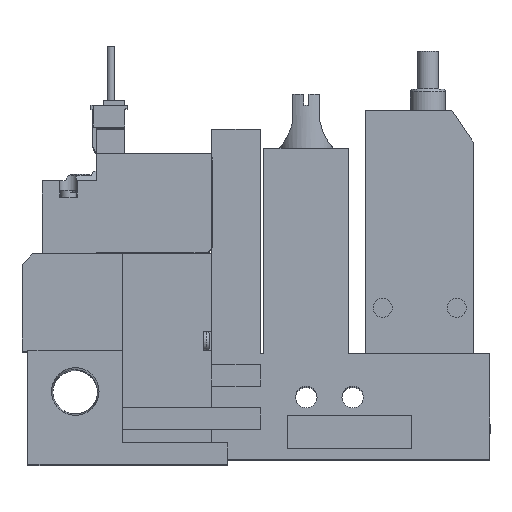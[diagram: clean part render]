
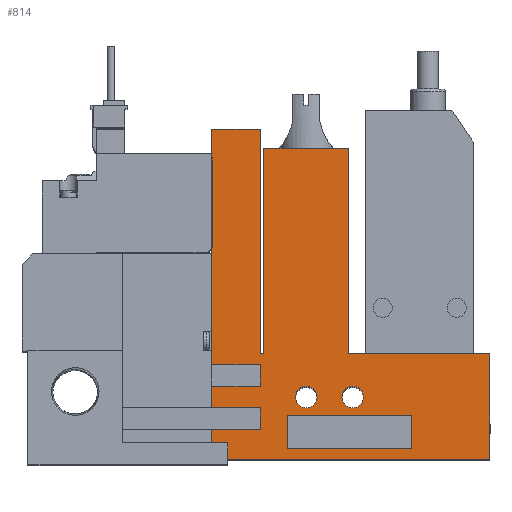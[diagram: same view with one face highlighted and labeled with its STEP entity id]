
A CAD part, top view. The second image highlights one B-rep face of the part: STEP entity #814.
In plain terms, the highlighted planar face has unit normal (0, 0, 1).
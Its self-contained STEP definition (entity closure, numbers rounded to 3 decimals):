
#814=ADVANCED_FACE('',(#1605,#1606,#1607,#1608),#1609,.T.);
#1605=FACE_OUTER_BOUND('',#2737,.T.);
#1606=FACE_BOUND('',#2738,.T.);
#1607=FACE_BOUND('',#2739,.T.);
#1608=FACE_BOUND('',#2740,.T.);
#1609=PLANE('',#2741);
#2737=EDGE_LOOP('',(#5508,#5509,#5510,#5511,#5512,#5513,#5514,#5515,#5516,#5517,#5518,#5519,#5520,#5521,#5522,#5523,#5524,#5525));
#2738=EDGE_LOOP('',(#5526,#5527,#5528,#5529));
#2739=EDGE_LOOP('',(#5530));
#2740=EDGE_LOOP('',(#5531));
#2741=AXIS2_PLACEMENT_3D('',#5532,#5533,#5534);
#5508=ORIENTED_EDGE('',*,*,#7710,.T.);
#5509=ORIENTED_EDGE('',*,*,#7676,.T.);
#5510=ORIENTED_EDGE('',*,*,#7711,.T.);
#5511=ORIENTED_EDGE('',*,*,#7712,.T.);
#5512=ORIENTED_EDGE('',*,*,#7713,.T.);
#5513=ORIENTED_EDGE('',*,*,#7714,.T.);
#5514=ORIENTED_EDGE('',*,*,#7650,.T.);
#5515=ORIENTED_EDGE('',*,*,#7668,.T.);
#5516=ORIENTED_EDGE('',*,*,#7715,.T.);
#5517=ORIENTED_EDGE('',*,*,#7716,.T.);
#5518=ORIENTED_EDGE('',*,*,#7717,.T.);
#5519=ORIENTED_EDGE('',*,*,#7718,.T.);
#5520=ORIENTED_EDGE('',*,*,#7719,.T.);
#5521=ORIENTED_EDGE('',*,*,#7720,.T.);
#5522=ORIENTED_EDGE('',*,*,#7721,.T.);
#5523=ORIENTED_EDGE('',*,*,#7722,.T.);
#5524=ORIENTED_EDGE('',*,*,#7723,.T.);
#5525=ORIENTED_EDGE('',*,*,#7724,.T.);
#5526=ORIENTED_EDGE('',*,*,#7725,.T.);
#5527=ORIENTED_EDGE('',*,*,#7726,.T.);
#5528=ORIENTED_EDGE('',*,*,#7727,.T.);
#5529=ORIENTED_EDGE('',*,*,#7660,.T.);
#5530=ORIENTED_EDGE('',*,*,#7728,.T.);
#5531=ORIENTED_EDGE('',*,*,#7689,.T.);
#5532=CARTESIAN_POINT('',(0.0,0.0,10.0));
#5533=DIRECTION('',(0.0,0.0,1.0));
#5534=DIRECTION('',(1.0,0.0,0.0));
#7650=EDGE_CURVE('',#9239,#9244,#9246,.T.);
#7660=EDGE_CURVE('',#9260,#9262,#9264,.T.);
#7668=EDGE_CURVE('',#9244,#9278,#9280,.T.);
#7676=EDGE_CURVE('',#9286,#9293,#9295,.T.);
#7689=EDGE_CURVE('',#9319,#9319,#9320,.T.);
#7710=EDGE_CURVE('',#9360,#9286,#9361,.T.);
#7711=EDGE_CURVE('',#9293,#9362,#9363,.T.);
#7712=EDGE_CURVE('',#9362,#9364,#9365,.T.);
#7713=EDGE_CURVE('',#9364,#9366,#9367,.T.);
#7714=EDGE_CURVE('',#9366,#9239,#9368,.T.);
#7715=EDGE_CURVE('',#9278,#9369,#9370,.T.);
#7716=EDGE_CURVE('',#9369,#9371,#9372,.T.);
#7717=EDGE_CURVE('',#9371,#9373,#9374,.T.);
#7718=EDGE_CURVE('',#9373,#9375,#9376,.T.);
#7719=EDGE_CURVE('',#9375,#9377,#9378,.T.);
#7720=EDGE_CURVE('',#9377,#9379,#9380,.T.);
#7721=EDGE_CURVE('',#9379,#9381,#9382,.T.);
#7722=EDGE_CURVE('',#9381,#9383,#9384,.T.);
#7723=EDGE_CURVE('',#9383,#9385,#9386,.T.);
#7724=EDGE_CURVE('',#9385,#9360,#9387,.T.);
#7725=EDGE_CURVE('',#9262,#9388,#9389,.T.);
#7726=EDGE_CURVE('',#9388,#9390,#9391,.T.);
#7727=EDGE_CURVE('',#9390,#9260,#9392,.T.);
#7728=EDGE_CURVE('',#9393,#9393,#9394,.T.);
#9239=VERTEX_POINT('',#11819);
#9244=VERTEX_POINT('',#11826);
#9246=LINE('',#11829,#11830);
#9260=VERTEX_POINT('',#11851);
#9262=VERTEX_POINT('',#11854);
#9264=LINE('',#11857,#11858);
#9278=VERTEX_POINT('',#11877);
#9280=LINE('',#11880,#11881);
#9286=VERTEX_POINT('',#11889);
#9293=VERTEX_POINT('',#11899);
#9295=LINE('',#11902,#11903);
#9319=VERTEX_POINT('',#11934);
#9320=CIRCLE('',#11935,2.0);
#9360=VERTEX_POINT('',#11995);
#9361=LINE('',#11996,#11997);
#9362=VERTEX_POINT('',#11998);
#9363=LINE('',#11999,#12000);
#9364=VERTEX_POINT('',#12001);
#9365=LINE('',#12002,#12003);
#9366=VERTEX_POINT('',#12004);
#9367=LINE('',#12005,#12006);
#9368=LINE('',#12007,#12008);
#9369=VERTEX_POINT('',#12009);
#9370=LINE('',#12010,#12011);
#9371=VERTEX_POINT('',#12012);
#9372=LINE('',#12013,#12014);
#9373=VERTEX_POINT('',#12015);
#9374=LINE('',#12016,#12017);
#9375=VERTEX_POINT('',#12018);
#9376=LINE('',#12019,#12020);
#9377=VERTEX_POINT('',#12021);
#9378=LINE('',#12022,#12023);
#9379=VERTEX_POINT('',#12024);
#9380=LINE('',#12025,#12026);
#9381=VERTEX_POINT('',#12027);
#9382=LINE('',#12028,#12029);
#9383=VERTEX_POINT('',#12030);
#9384=LINE('',#12031,#12032);
#9385=VERTEX_POINT('',#12033);
#9386=LINE('',#12034,#12035);
#9387=LINE('',#12036,#12037);
#9388=VERTEX_POINT('',#12038);
#9389=LINE('',#12039,#12040);
#9390=VERTEX_POINT('',#12041);
#9391=LINE('',#12042,#12043);
#9392=LINE('',#12044,#12045);
#9393=VERTEX_POINT('',#12046);
#9394=CIRCLE('',#12047,2.0);
#11819=CARTESIAN_POINT('',(44.1,9.5,10.0));
#11826=CARTESIAN_POINT('',(44.1,5.5,10.0));
#11829=CARTESIAN_POINT('',(44.1,0.0,10.0));
#11830=VECTOR('',#14039,1.0);
#11851=CARTESIAN_POINT('',(72.1,2.0,10.0));
#11854=CARTESIAN_POINT('',(49.1,2.0,10.0));
#11857=CARTESIAN_POINT('',(0.0,2.0,10.0));
#11858=VECTOR('',#14049,1.0);
#11877=CARTESIAN_POINT('',(35.1,5.5,10.0));
#11880=CARTESIAN_POINT('',(0.0,5.5,10.0));
#11881=VECTOR('',#14059,1.0);
#11889=CARTESIAN_POINT('',(35.1,17.5,10.0));
#11899=CARTESIAN_POINT('',(44.1,17.5,10.0));
#11902=CARTESIAN_POINT('',(0.0,17.5,10.0));
#11903=VECTOR('',#14069,1.0);
#11934=CARTESIAN_POINT('',(63.2,11.5,10.0));
#11935=AXIS2_PLACEMENT_3D('',#14092,#14093,#14094);
#11995=CARTESIAN_POINT('',(35.1,61.0,10.0));
#11996=CARTESIAN_POINT('',(35.1,61.0,10.0));
#11997=VECTOR('',#14115,1.0);
#11998=CARTESIAN_POINT('',(44.1,13.5,10.0));
#11999=CARTESIAN_POINT('',(44.1,0.0,10.0));
#12000=VECTOR('',#14116,1.0);
#12001=CARTESIAN_POINT('',(35.1,13.5,10.0));
#12002=CARTESIAN_POINT('',(0.0,13.5,10.0));
#12003=VECTOR('',#14117,1.0);
#12004=CARTESIAN_POINT('',(35.1,9.5,10.0));
#12005=CARTESIAN_POINT('',(35.1,0.0,10.0));
#12006=VECTOR('',#14118,1.0);
#12007=CARTESIAN_POINT('',(0.0,9.5,10.0));
#12008=VECTOR('',#14119,1.0);
#12009=CARTESIAN_POINT('',(35.1,0.0,10.0));
#12010=CARTESIAN_POINT('',(35.1,0.0,10.0));
#12011=VECTOR('',#14120,1.0);
#12012=CARTESIAN_POINT('',(86.6,0.0,10.0));
#12013=CARTESIAN_POINT('',(18.6,0.0,10.0));
#12014=VECTOR('',#14121,1.0);
#12015=CARTESIAN_POINT('',(86.6,19.5,10.0));
#12016=CARTESIAN_POINT('',(86.6,0.0,10.0));
#12017=VECTOR('',#14122,1.0);
#12018=CARTESIAN_POINT('',(60.45,19.5,10.0));
#12019=CARTESIAN_POINT('',(86.6,19.5,10.0));
#12020=VECTOR('',#14123,1.0);
#12021=CARTESIAN_POINT('',(60.45,57.5,10.0));
#12022=CARTESIAN_POINT('',(60.45,19.5,10.0));
#12023=VECTOR('',#14124,1.0);
#12024=CARTESIAN_POINT('',(44.75,57.5,10.0));
#12025=CARTESIAN_POINT('',(60.45,57.5,10.0));
#12026=VECTOR('',#14125,1.0);
#12027=CARTESIAN_POINT('',(44.75,19.5,10.0));
#12028=CARTESIAN_POINT('',(44.75,57.5,10.0));
#12029=VECTOR('',#14126,1.0);
#12030=CARTESIAN_POINT('',(44.1,19.5,10.0));
#12031=CARTESIAN_POINT('',(44.75,19.5,10.0));
#12032=VECTOR('',#14127,1.0);
#12033=CARTESIAN_POINT('',(44.1,61.0,10.0));
#12034=CARTESIAN_POINT('',(44.1,19.5,10.0));
#12035=VECTOR('',#14128,1.0);
#12036=CARTESIAN_POINT('',(44.1,61.0,10.0));
#12037=VECTOR('',#14129,1.0);
#12038=CARTESIAN_POINT('',(49.1,8.0,10.0));
#12039=CARTESIAN_POINT('',(49.1,0.0,10.0));
#12040=VECTOR('',#14130,1.0);
#12041=CARTESIAN_POINT('',(72.1,8.0,10.0));
#12042=CARTESIAN_POINT('',(0.0,8.0,10.0));
#12043=VECTOR('',#14131,1.0);
#12044=CARTESIAN_POINT('',(72.1,0.0,10.0));
#12045=VECTOR('',#14132,1.0);
#12046=CARTESIAN_POINT('',(54.6,11.5,10.0));
#12047=AXIS2_PLACEMENT_3D('',#14133,#14134,#14135);
#14039=DIRECTION('',(0.0,-1.0,0.0));
#14049=DIRECTION('',(-1.0,0.0,0.0));
#14059=DIRECTION('',(-1.0,0.0,0.0));
#14069=DIRECTION('',(1.0,0.0,0.0));
#14092=CARTESIAN_POINT('',(61.2,11.5,10.0));
#14093=DIRECTION('',(0.0,0.0,-1.0));
#14094=DIRECTION('',(1.0,0.0,0.0));
#14115=DIRECTION('',(0.0,-1.0,0.0));
#14116=DIRECTION('',(0.0,-1.0,0.0));
#14117=DIRECTION('',(-1.0,0.0,0.0));
#14118=DIRECTION('',(0.0,-1.0,0.0));
#14119=DIRECTION('',(1.0,0.0,0.0));
#14120=DIRECTION('',(0.0,-1.0,0.0));
#14121=DIRECTION('',(1.0,0.0,0.0));
#14122=DIRECTION('',(0.0,1.0,0.0));
#14123=DIRECTION('',(-1.0,0.0,0.0));
#14124=DIRECTION('',(0.0,1.0,0.0));
#14125=DIRECTION('',(-1.0,0.0,0.0));
#14126=DIRECTION('',(0.0,-1.0,0.0));
#14127=DIRECTION('',(-1.0,0.0,0.0));
#14128=DIRECTION('',(0.0,1.0,0.0));
#14129=DIRECTION('',(-1.0,0.0,0.0));
#14130=DIRECTION('',(0.0,1.0,0.0));
#14131=DIRECTION('',(1.0,0.0,0.0));
#14132=DIRECTION('',(0.0,-1.0,0.0));
#14133=CARTESIAN_POINT('',(52.6,11.5,10.0));
#14134=DIRECTION('',(0.0,0.0,-1.0));
#14135=DIRECTION('',(1.0,0.0,0.0));
